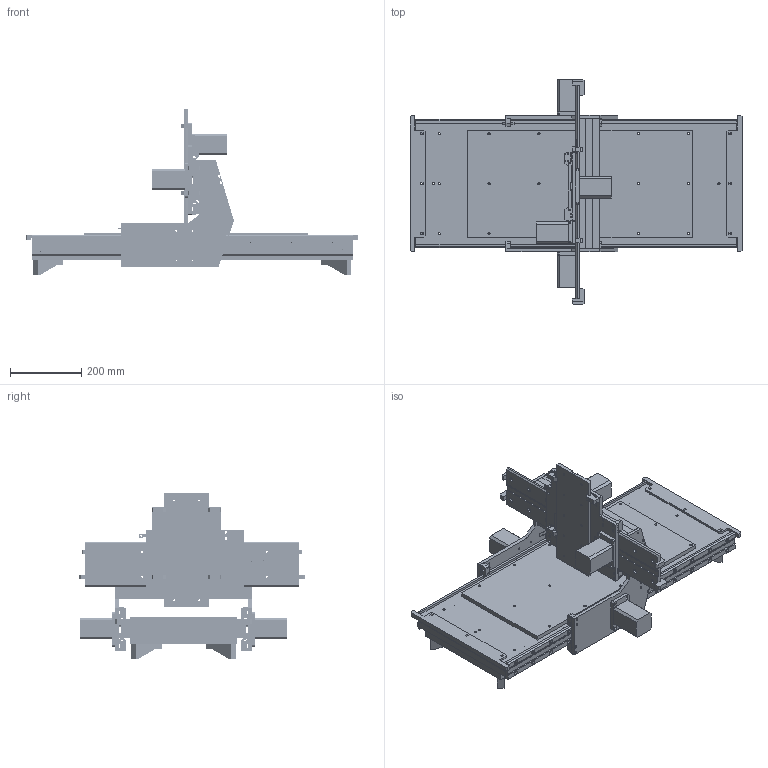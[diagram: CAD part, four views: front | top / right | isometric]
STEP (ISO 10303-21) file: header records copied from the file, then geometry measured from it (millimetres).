
FILE_DESCRIPTION(/* description */ (''),/* implementation_level */ '2;1');
FILE_NAME(/* name */ 'HANK-C~1',/* time_stamp */ '2017-03-21T22:16:17+01:00',/* author */ (''),/* organization */ (''),/* preprocessor_version */ 'ST-DEVELOPER v15',/* originating_system */ '',/* authorisation */ '');
FILE_SCHEMA (('AUTOMOTIVE_DESIGN'));
Products named in the file (1): Document
Bounding box: 931.4 x 633.4 x 463.53 mm (x, y, z)
Volume: 29334431.1 mm3; surface area: 4307804.9 mm2
Topology: 50 solids, 50 shells, 2639 faces, 7243 edges, 4819 vertices
Faces by surface type: bspline 1524, plane 1115
Entity records: 227132 total; most frequent: CARTESIAN_POINT 184731, ORIENTED_EDGE 14480, EDGE_CURVE 7240, VERTEX_POINT 4816, EDGE_LOOP 3468, ADVANCED_FACE 2639, FACE_OUTER_BOUND 2639, B_SPLINE_CURVE_WITH_KNOTS 2503
